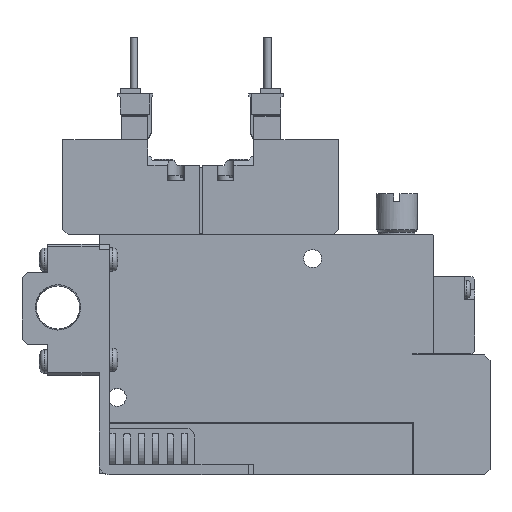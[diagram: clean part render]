
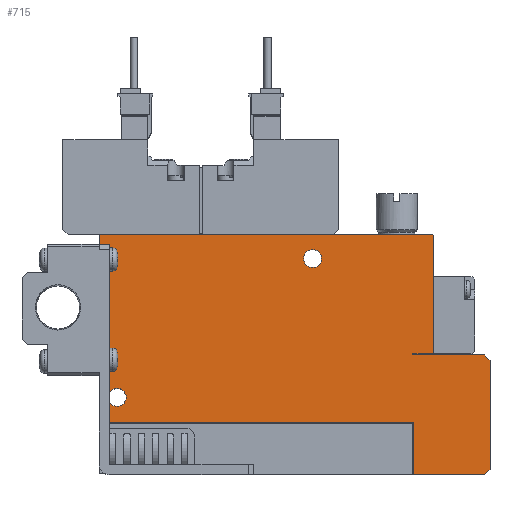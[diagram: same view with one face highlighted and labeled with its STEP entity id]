
A CAD part, top view. The second image highlights one B-rep face of the part: STEP entity #715.
In plain terms, the highlighted planar face has unit normal (0, 0, 1).
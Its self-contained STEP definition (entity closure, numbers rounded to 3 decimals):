
#715=ADVANCED_FACE('',(#1678,#1679,#1680),#1681,.F.);
#1678=FACE_OUTER_BOUND('',#2924,.T.);
#1679=FACE_BOUND('',#2925,.T.);
#1680=FACE_BOUND('',#2926,.T.);
#1681=PLANE('',#2927);
#2924=EDGE_LOOP('',(#6274,#6275,#6276,#6277,#6278,#6279,#6280,#6281,#6282,#6283,#6284,#6285,#6286,#6287));
#2925=EDGE_LOOP('',(#6288));
#2926=EDGE_LOOP('',(#6289));
#2927=AXIS2_PLACEMENT_3D('',#6290,#6291,#6292);
#6274=ORIENTED_EDGE('',*,*,#8714,.T.);
#6275=ORIENTED_EDGE('',*,*,#8956,.F.);
#6276=ORIENTED_EDGE('',*,*,#8834,.F.);
#6277=ORIENTED_EDGE('',*,*,#8719,.T.);
#6278=ORIENTED_EDGE('',*,*,#8957,.T.);
#6279=ORIENTED_EDGE('',*,*,#8958,.T.);
#6280=ORIENTED_EDGE('',*,*,#8890,.T.);
#6281=ORIENTED_EDGE('',*,*,#8934,.T.);
#6282=ORIENTED_EDGE('',*,*,#8959,.T.);
#6283=ORIENTED_EDGE('',*,*,#8673,.T.);
#6284=ORIENTED_EDGE('',*,*,#8939,.T.);
#6285=ORIENTED_EDGE('',*,*,#8960,.T.);
#6286=ORIENTED_EDGE('',*,*,#8851,.T.);
#6287=ORIENTED_EDGE('',*,*,#8870,.T.);
#6288=ORIENTED_EDGE('',*,*,#8961,.F.);
#6289=ORIENTED_EDGE('',*,*,#8915,.F.);
#6290=CARTESIAN_POINT('',(0.0,0.0,5.0));
#6291=DIRECTION('',(0.0,0.0,-1.0));
#6292=DIRECTION('',(0.0,-1.0,0.0));
#8673=EDGE_CURVE('',#10594,#10592,#10595,.T.);
#8714=EDGE_CURVE('',#10671,#10669,#10672,.T.);
#8719=EDGE_CURVE('',#10675,#10679,#10681,.T.);
#8834=EDGE_CURVE('',#10675,#10893,#10894,.T.);
#8851=EDGE_CURVE('',#10921,#10919,#10922,.T.);
#8870=EDGE_CURVE('',#10919,#10671,#10953,.T.);
#8890=EDGE_CURVE('',#10985,#10983,#10986,.T.);
#8915=EDGE_CURVE('',#11022,#11022,#11023,.T.);
#8934=EDGE_CURVE('',#10983,#11050,#11052,.T.);
#8939=EDGE_CURVE('',#10592,#11058,#11060,.T.);
#8956=EDGE_CURVE('',#10893,#10669,#11087,.T.);
#8957=EDGE_CURVE('',#10679,#11088,#11089,.T.);
#8958=EDGE_CURVE('',#11088,#10985,#11090,.T.);
#8959=EDGE_CURVE('',#11050,#10594,#11091,.T.);
#8960=EDGE_CURVE('',#11058,#10921,#11092,.T.);
#8961=EDGE_CURVE('',#11093,#11093,#11094,.T.);
#10592=VERTEX_POINT('',#13731);
#10594=VERTEX_POINT('',#13734);
#10595=LINE('',#13735,#13736);
#10669=VERTEX_POINT('',#13883);
#10671=VERTEX_POINT('',#13886);
#10672=LINE('',#13887,#13888);
#10675=VERTEX_POINT('',#13892);
#10679=VERTEX_POINT('',#13898);
#10681=LINE('',#13901,#13902);
#10893=VERTEX_POINT('',#14316);
#10894=LINE('',#14317,#14318);
#10919=VERTEX_POINT('',#14356);
#10921=VERTEX_POINT('',#14359);
#10922=LINE('',#14360,#14361);
#10953=LINE('',#14406,#14407);
#10983=VERTEX_POINT('',#14452);
#10985=VERTEX_POINT('',#14455);
#10986=LINE('',#14456,#14457);
#11022=VERTEX_POINT('',#14515);
#11023=CIRCLE('',#14516,1.75);
#11050=VERTEX_POINT('',#14554);
#11052=LINE('',#14557,#14558);
#11058=VERTEX_POINT('',#14567);
#11060=LINE('',#14570,#14571);
#11087=LINE('',#14613,#14614);
#11088=VERTEX_POINT('',#14615);
#11089=LINE('',#14616,#14617);
#11090=LINE('',#14618,#14619);
#11091=LINE('',#14620,#14621);
#11092=LINE('',#14622,#14623);
#11093=VERTEX_POINT('',#14624);
#11094=CIRCLE('',#14625,1.75);
#13731=CARTESIAN_POINT('',(65.0,23.5,5.0));
#13734=CARTESIAN_POINT('',(61.0,23.5,5.0));
#13735=CARTESIAN_POINT('',(61.0,23.5,5.0));
#13736=VECTOR('',#17029,1.0);
#13883=CARTESIAN_POINT('',(0.0,10.1,5.0));
#13886=CARTESIAN_POINT('',(0.0,46.4,5.0));
#13887=CARTESIAN_POINT('',(0.0,46.4,5.0));
#13888=VECTOR('',#17083,1.0);
#13892=CARTESIAN_POINT('',(61.1,0.0,5.0));
#13898=CARTESIAN_POINT('',(75.0,0.0,5.0));
#13901=CARTESIAN_POINT('',(0.0,0.0,5.0));
#13902=VECTOR('',#17088,1.0);
#14316=CARTESIAN_POINT('',(61.1,10.1,5.0));
#14317=CARTESIAN_POINT('',(61.1,0.0,5.0));
#14318=VECTOR('',#17249,1.0);
#14356=CARTESIAN_POINT('',(0.2,46.6,5.0));
#14359=CARTESIAN_POINT('',(64.8,46.6,5.0));
#14360=CARTESIAN_POINT('',(64.8,46.6,5.0));
#14361=VECTOR('',#17270,1.0);
#14406=CARTESIAN_POINT('',(0.2,46.6,5.0));
#14407=VECTOR('',#17297,1.0);
#14452=CARTESIAN_POINT('',(75.0,23.25,5.0));
#14455=CARTESIAN_POINT('',(76.0,22.25,5.0));
#14456=CARTESIAN_POINT('',(76.0,22.25,5.0));
#14457=VECTOR('',#17323,1.0);
#14515=CARTESIAN_POINT('',(43.25,42.0,5.0));
#14516=AXIS2_PLACEMENT_3D('',#17352,#17353,#17354);
#14554=CARTESIAN_POINT('',(61.0,23.25,5.0));
#14557=CARTESIAN_POINT('',(75.0,23.25,5.0));
#14558=VECTOR('',#17385,1.0);
#14567=CARTESIAN_POINT('',(65.0,46.4,5.0));
#14570=CARTESIAN_POINT('',(65.0,23.5,5.0));
#14571=VECTOR('',#17390,1.0);
#14613=CARTESIAN_POINT('',(61.1,10.1,5.0));
#14614=VECTOR('',#17409,1.0);
#14615=CARTESIAN_POINT('',(76.0,1.0,5.0));
#14616=CARTESIAN_POINT('',(75.0,0.0,5.0));
#14617=VECTOR('',#17410,1.0);
#14618=CARTESIAN_POINT('',(76.0,1.0,5.0));
#14619=VECTOR('',#17411,1.0);
#14620=CARTESIAN_POINT('',(61.0,23.25,5.0));
#14621=VECTOR('',#17412,1.0);
#14622=CARTESIAN_POINT('',(65.0,46.4,5.0));
#14623=VECTOR('',#17413,1.0);
#14624=CARTESIAN_POINT('',(5.25,15.0,5.0));
#14625=AXIS2_PLACEMENT_3D('',#17414,#17415,#17416);
#17029=DIRECTION('',(1.0,0.,0.0));
#17083=DIRECTION('',(0.0,-1.0,0.0));
#17088=DIRECTION('',(1.0,0.0,0.0));
#17249=DIRECTION('',(0.0,1.0,0.0));
#17270=DIRECTION('',(-1.0,0.0,0.0));
#17297=DIRECTION('',(-0.707,-0.707,0.0));
#17323=DIRECTION('',(-0.707,0.707,0.0));
#17352=CARTESIAN_POINT('',(41.5,42.0,5.0));
#17353=DIRECTION('',(0.0,0.0,1.0));
#17354=DIRECTION('',(1.0,0.0,0.0));
#17385=DIRECTION('',(-1.0,0.0,0.0));
#17390=DIRECTION('',(0.0,1.0,0.0));
#17409=DIRECTION('',(-1.0,0.0,0.0));
#17410=DIRECTION('',(0.707,0.707,0.0));
#17411=DIRECTION('',(0.0,1.0,0.0));
#17412=DIRECTION('',(0.0,1.0,0.0));
#17413=DIRECTION('',(-0.707,0.707,0.0));
#17414=CARTESIAN_POINT('',(3.5,15.0,5.0));
#17415=DIRECTION('',(0.0,0.0,1.0));
#17416=DIRECTION('',(1.0,0.0,0.0));
